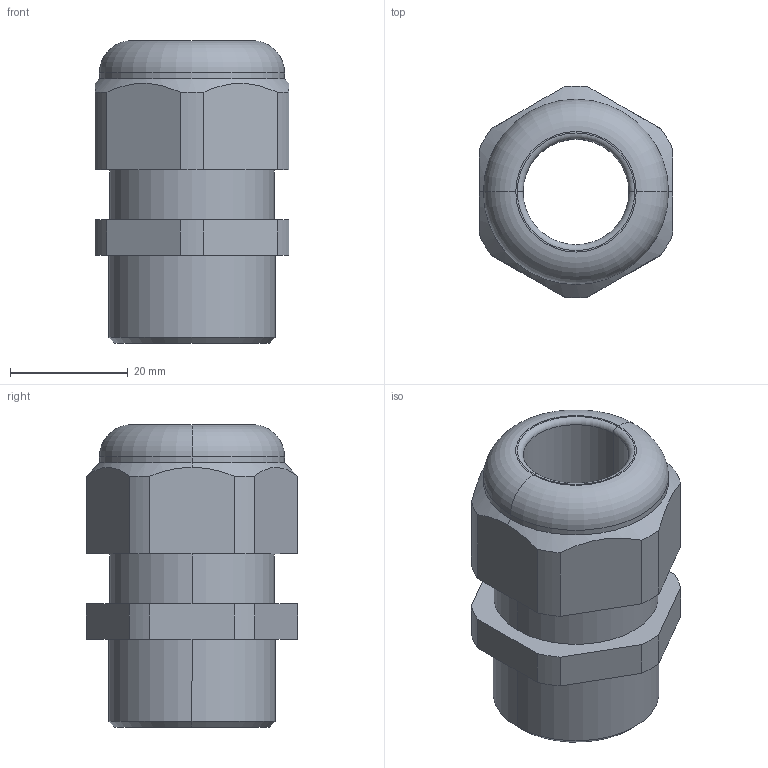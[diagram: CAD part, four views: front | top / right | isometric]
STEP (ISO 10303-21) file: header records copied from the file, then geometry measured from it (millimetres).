
FILE_DESCRIPTION (( 'STEP AP203' ), '1' );
FILE_NAME ('50.021 PA15.STEP', '2006-11-07T09:55:30', ( ' ' ), ( '' ), 'SwSTEP 2.0', 'SolidWorks 2005278', '' );
FILE_SCHEMA (( 'CONFIG_CONTROL_DESIGN' ));
Length unit declared in the file: millimetre
Products named in the file (1): 50.021 PA15
Bounding box: 33 x 35.97 x 51.5 mm (x, y, z)
Volume: 25834 mm3; surface area: 9542.9 mm2
Topology: 1 solids, 1 shells, 84 faces, 218 edges, 142 vertices
Faces by surface type: plane 54, cylinder 20, torus 6, cone 4
Entity records: 2713 total; most frequent: CARTESIAN_POINT 537, ORIENTED_EDGE 436, DIRECTION 434, EDGE_CURVE 218, VECTOR 156, LINE 156, VERTEX_POINT 142, AXIS2_PLACEMENT_3D 139
